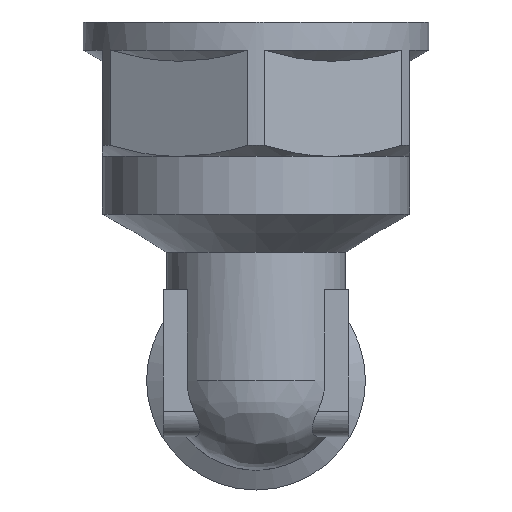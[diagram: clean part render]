
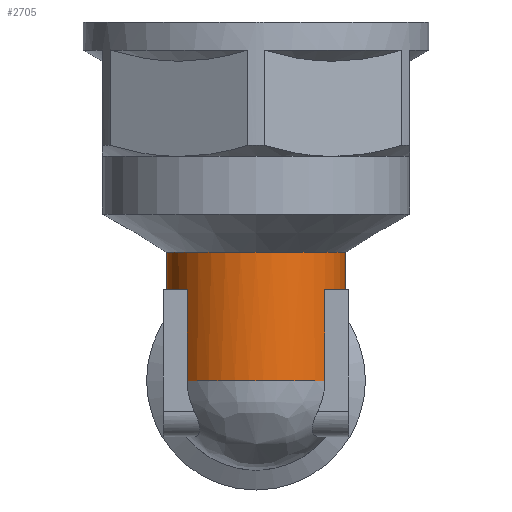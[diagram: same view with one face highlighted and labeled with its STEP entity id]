
A CAD part, front view. The second image highlights one B-rep face of the part: STEP entity #2705.
In plain terms, the highlighted cylindrical face has radius 7 mm (diameter 14 mm), a full revolution.
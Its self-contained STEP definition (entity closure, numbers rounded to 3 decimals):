
#17=ELLIPSE('',#2991,9.899,7.);
#58=CYLINDRICAL_SURFACE('',#2990,7.);
#294=LINE('',#4601,#472);
#313=LINE('',#4689,#491);
#316=LINE('',#4695,#494);
#325=LINE('',#4726,#503);
#326=LINE('',#4763,#504);
#472=VECTOR('',#3587,10.);
#491=VECTOR('',#3632,10.);
#494=VECTOR('',#3637,10.);
#503=VECTOR('',#3660,10.);
#504=VECTOR('',#3671,7.);
#703=FACE_OUTER_BOUND('',#862,.T.);
#862=EDGE_LOOP('',(#2424,#2425,#2426,#2427,#2428,#2429,#2430,#2431,#2432,
#2433,#2434,#2435,#2436,#2437,#2438,#2439));
#922=CIRCLE('',#2810,7.);
#923=CIRCLE('',#2811,7.);
#924=CIRCLE('',#2812,7.);
#1005=CIRCLE('',#2968,7.);
#1006=CIRCLE('',#2969,7.);
#1007=CIRCLE('',#2971,7.);
#1011=CIRCLE('',#2980,7.);
#1012=CIRCLE('',#2982,7.);
#1015=CIRCLE('',#2989,7.);
#1107=VERTEX_POINT('',#4028);
#1108=VERTEX_POINT('',#4029);
#1109=VERTEX_POINT('',#4031);
#1260=VERTEX_POINT('',#4594);
#1262=VERTEX_POINT('',#4600);
#1274=VERTEX_POINT('',#4657);
#1275=VERTEX_POINT('',#4658);
#1278=VERTEX_POINT('',#4664);
#1279=VERTEX_POINT('',#4668);
#1286=VERTEX_POINT('',#4688);
#1288=VERTEX_POINT('',#4694);
#1290=VERTEX_POINT('',#4700);
#1291=VERTEX_POINT('',#4705);
#1295=VERTEX_POINT('',#4725);
#1416=EDGE_CURVE('',#1107,#1108,#922,.T.);
#1417=EDGE_CURVE('',#1109,#1107,#923,.T.);
#1419=EDGE_CURVE('',#1108,#1109,#924,.T.);
#1635=EDGE_CURVE('',#1262,#1260,#294,.T.);
#1650=EDGE_CURVE('',#1274,#1275,#1005,.T.);
#1654=EDGE_CURVE('',#1275,#1278,#1006,.T.);
#1655=EDGE_CURVE('',#1279,#1262,#1007,.T.);
#1665=EDGE_CURVE('',#1278,#1286,#313,.T.);
#1668=EDGE_CURVE('',#1288,#1279,#316,.T.);
#1672=EDGE_CURVE('',#1286,#1290,#1011,.T.);
#1676=EDGE_CURVE('',#1291,#1288,#1012,.T.);
#1681=EDGE_CURVE('',#1295,#1274,#325,.T.);
#1685=EDGE_CURVE('',#1260,#1295,#1015,.T.);
#1686=EDGE_CURVE('',#1108,#1275,#326,.T.);
#1687=EDGE_CURVE('',#1291,#1290,#17,.T.);
#2424=ORIENTED_EDGE('',*,*,#1416,.T.);
#2425=ORIENTED_EDGE('',*,*,#1686,.T.);
#2426=ORIENTED_EDGE('',*,*,#1654,.T.);
#2427=ORIENTED_EDGE('',*,*,#1665,.T.);
#2428=ORIENTED_EDGE('',*,*,#1672,.T.);
#2429=ORIENTED_EDGE('',*,*,#1687,.F.);
#2430=ORIENTED_EDGE('',*,*,#1676,.T.);
#2431=ORIENTED_EDGE('',*,*,#1668,.T.);
#2432=ORIENTED_EDGE('',*,*,#1655,.T.);
#2433=ORIENTED_EDGE('',*,*,#1635,.T.);
#2434=ORIENTED_EDGE('',*,*,#1685,.T.);
#2435=ORIENTED_EDGE('',*,*,#1681,.T.);
#2436=ORIENTED_EDGE('',*,*,#1650,.T.);
#2437=ORIENTED_EDGE('',*,*,#1686,.F.);
#2438=ORIENTED_EDGE('',*,*,#1419,.T.);
#2439=ORIENTED_EDGE('',*,*,#1417,.T.);
#2705=ADVANCED_FACE('',(#703),#58,.T.);
#2810=AXIS2_PLACEMENT_3D('',#4030,#3159,#3160);
#2811=AXIS2_PLACEMENT_3D('',#4032,#3161,#3162);
#2812=AXIS2_PLACEMENT_3D('',#4034,#3164,#3165);
#2968=AXIS2_PLACEMENT_3D('',#4659,#3603,#3604);
#2969=AXIS2_PLACEMENT_3D('',#4666,#3608,#3609);
#2971=AXIS2_PLACEMENT_3D('',#4669,#3612,#3613);
#2980=AXIS2_PLACEMENT_3D('',#4702,#3643,#3644);
#2982=AXIS2_PLACEMENT_3D('',#4708,#3650,#3651);
#2989=AXIS2_PLACEMENT_3D('',#4761,#3667,#3668);
#2990=AXIS2_PLACEMENT_3D('',#4762,#3669,#3670);
#2991=AXIS2_PLACEMENT_3D('',#4764,#3672,#3673);
#3159=DIRECTION('center_axis',(0.,0.,-1.));
#3160=DIRECTION('ref_axis',(-1.,0.,0.));
#3161=DIRECTION('center_axis',(0.,0.,-1.));
#3162=DIRECTION('ref_axis',(-1.,0.,0.));
#3164=DIRECTION('center_axis',(0.,0.,-1.));
#3165=DIRECTION('ref_axis',(-1.,0.,0.));
#3587=DIRECTION('',(0.,0.,-1.));
#3603=DIRECTION('center_axis',(0.,0.,1.));
#3604=DIRECTION('ref_axis',(-1.,0.,0.));
#3608=DIRECTION('center_axis',(0.,0.,1.));
#3609=DIRECTION('ref_axis',(-1.,0.,0.));
#3612=DIRECTION('center_axis',(0.,0.,1.));
#3613=DIRECTION('ref_axis',(-1.,0.,0.));
#3632=DIRECTION('',(0.,0.,-1.));
#3637=DIRECTION('',(0.,0.,1.));
#3643=DIRECTION('center_axis',(0.,0.,1.));
#3644=DIRECTION('ref_axis',(-1.,0.,0.));
#3650=DIRECTION('center_axis',(0.,0.,1.));
#3651=DIRECTION('ref_axis',(-1.,0.,0.));
#3660=DIRECTION('',(0.,0.,1.));
#3667=DIRECTION('center_axis',(0.,0.,1.));
#3668=DIRECTION('ref_axis',(-1.,0.,0.));
#3669=DIRECTION('center_axis',(0.,0.,1.));
#3670=DIRECTION('ref_axis',(-1.,0.,0.));
#3671=DIRECTION('',(0.,0.,-1.));
#3672=DIRECTION('center_axis',(0.,0.707,-0.707));
#3673=DIRECTION('ref_axis',(0.,-0.707,-0.707));
#4028=CARTESIAN_POINT('',(0.,-38.5,10.));
#4029=CARTESIAN_POINT('',(7.,-45.5,10.));
#4030=CARTESIAN_POINT('Origin',(0.,-45.5,10.));
#4031=CARTESIAN_POINT('',(0.,-52.5,10.));
#4032=CARTESIAN_POINT('Origin',(0.,-45.5,10.));
#4034=CARTESIAN_POINT('Origin',(0.,-45.5,10.));
#4594=CARTESIAN_POINT('',(-5.382,-49.976,0.));
#4600=CARTESIAN_POINT('',(-5.382,-49.976,7.105));
#4601=CARTESIAN_POINT('',(-5.382,-49.976,0.));
#4657=CARTESIAN_POINT('',(5.382,-49.976,7.105));
#4658=CARTESIAN_POINT('',(7.,-45.5,7.105));
#4659=CARTESIAN_POINT('Origin',(0.,-45.5,7.105));
#4664=CARTESIAN_POINT('',(6.313,-42.476,7.105));
#4666=CARTESIAN_POINT('Origin',(0.,-45.5,7.105));
#4668=CARTESIAN_POINT('',(-6.313,-42.476,7.105));
#4669=CARTESIAN_POINT('Origin',(0.,-45.5,7.105));
#4688=CARTESIAN_POINT('',(6.313,-42.476,3.105));
#4689=CARTESIAN_POINT('',(6.313,-42.476,0.));
#4694=CARTESIAN_POINT('',(-6.313,-42.476,3.105));
#4695=CARTESIAN_POINT('',(-6.313,-42.476,0.));
#4700=CARTESIAN_POINT('',(6.273,-42.395,3.105));
#4702=CARTESIAN_POINT('Origin',(0.,-45.5,3.105));
#4705=CARTESIAN_POINT('',(-6.273,-42.395,3.105));
#4708=CARTESIAN_POINT('Origin',(0.,-45.5,3.105));
#4725=CARTESIAN_POINT('',(5.382,-49.976,0.));
#4726=CARTESIAN_POINT('',(5.382,-49.976,0.));
#4761=CARTESIAN_POINT('Origin',(0.,-45.5,0.));
#4762=CARTESIAN_POINT('Origin',(0.,-45.5,0.));
#4763=CARTESIAN_POINT('',(7.,-45.5,0.));
#4764=CARTESIAN_POINT('Origin',(0.,-45.5,0.));
